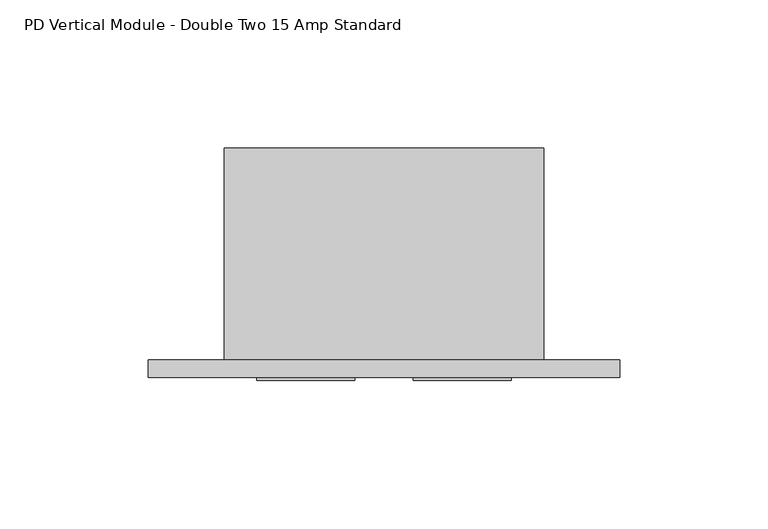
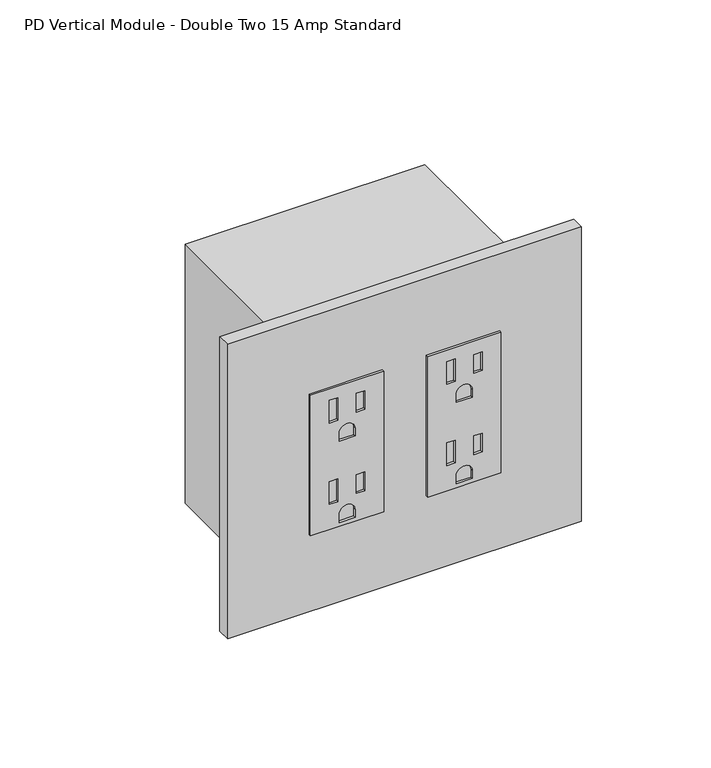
"""IFC4 building model written with IfcOpenShell, lengths in millimetres: proxy geometry, Electrical-Teknion-EPDMD_Vertical_Power_Data_Double-R2019 : PD Vertical Module - Double Two 15 Amp Standard."""

from ifc_helpers import new_model, si_unit, point, frame, frame_2d, origin, place, context, project, spatial, polyline, circle_curve, trimmed, segment, composite_curve, outline, extrude, source, transform, mapped, element, save


def pd_vertical_module_double_two_15_amp_standard_3b64569a(model_context):
    return source(origin(), model_context, "Body", "SweptSolid", [
        extrude(outline(polyline([(490.5876229, 96.9264), (490.5876229, 63.9318), (423.6332229, 63.9318), (423.6332229, 96.9264), (490.5876229, 96.9264)]), holes=[polyline([(485.2028229, 76.2762), (474.3824229, 76.2762), (474.3824229, 72.4408), (485.2028229, 72.4408), (485.2028229, 76.2762)]), polyline([(484.2249229, 88.4428), (475.3603229, 88.4428), (475.3603229, 84.6074), (484.2249229, 84.6074), (484.2249229, 88.4428)]), composite_curve([segment(polyline([(464.1970229, 76.7969), (467.8292229, 76.7969)]), True, "CONTINUOUS"), segment(trimmed(circle_curve(frame_2d((467.8292229, 80.4291)), 3.6322), [point((467.8292229, 76.7969))], [point((467.8292229, 84.0613))], True, "CARTESIAN"), True, "CONTINUOUS"), segment(polyline([(467.8292229, 84.0613), (464.1970229, 84.0613), (464.1970229, 76.7969)]), True, "CONTINUOUS")], self_intersect=False), polyline([(446.4678229, 76.2762), (435.6474229, 76.2762), (435.6474229, 72.4408), (446.4678229, 72.4408), (446.4678229, 76.2762)]), polyline([(445.4899229, 88.4428), (436.6253229, 88.4428), (436.6253229, 84.6074), (445.4899229, 84.6074), (445.4899229, 88.4428)]), composite_curve([segment(polyline([(429.0942229, 84.0613), (425.4620229, 84.0613), (425.4620229, 76.7969), (429.0942229, 76.7969)]), True, "CONTINUOUS"), segment(trimmed(circle_curve(frame_2d((429.0942229, 80.4291)), 3.6322), [point((429.0942229, 76.7969))], [point((429.0942229, 84.0613))], True, "CARTESIAN"), True, "CONTINUOUS")], self_intersect=False)]), frame((0.0, -6.9294746, 0.0), z_axis=(0.0, 1.0, 0.0), x_axis=(0.0, 0.0, 1.0)), (0.0, 0.0, 1.0), 1.0366746),
        extrude(outline(polyline([(490.5876229, 44.0944), (490.5876229, 11.0998), (423.6332229, 11.0998), (423.6332229, 44.0944), (490.5876229, 44.0944)]), holes=[polyline([(485.2028229, 23.4442), (474.3824229, 23.4442), (474.3824229, 19.6088), (485.2028229, 19.6088), (485.2028229, 23.4442)]), polyline([(484.2249229, 35.6108), (475.3603229, 35.6108), (475.3603229, 31.7754), (484.2249229, 31.7754), (484.2249229, 35.6108)]), composite_curve([segment(polyline([(464.1970229, 31.2293), (464.1970229, 23.9649), (467.8292229, 23.9649)]), True, "CONTINUOUS"), segment(trimmed(circle_curve(frame_2d((467.8292229, 27.5971)), 3.6322), [point((467.8292229, 23.9649))], [point((467.8292229, 31.2293))], True, "CARTESIAN"), True, "CONTINUOUS"), segment(polyline([(467.8292229, 31.2293), (464.1970229, 31.2293)]), True, "CONTINUOUS")], self_intersect=False), polyline([(446.4678229, 23.4442), (435.6474229, 23.4442), (435.6474229, 19.6088), (446.4678229, 19.6088), (446.4678229, 23.4442)]), polyline([(445.4899229, 35.6108), (436.6253229, 35.6108), (436.6253229, 31.7754), (445.4899229, 31.7754), (445.4899229, 35.6108)]), composite_curve([segment(polyline([(425.4620229, 31.2293), (425.4620229, 23.9649), (429.0942229, 23.9649)]), True, "CONTINUOUS"), segment(trimmed(circle_curve(frame_2d((429.0942229, 27.5971)), 3.6322), [point((429.0942229, 23.9649))], [point((429.0942229, 31.2293))], True, "CARTESIAN"), True, "CONTINUOUS"), segment(polyline([(429.0942229, 31.2293), (425.4620229, 31.2293)]), True, "CONTINUOUS")], self_intersect=False)]), frame((0.0, -6.9294746, 0.0), z_axis=(0.0, 1.0, 0.0), x_axis=(0.0, 0.0, 1.0)), (0.0, 0.0, 1.0), 1.0366746),
        extrude(outline(polyline([(-25.6794, 0.0), (133.7056, 0.0), (133.7056, -5.8928), (-25.6794, -5.8928), (-25.6794, 0.0)])), frame((0.0, 0.0, 386.9302229), z_axis=(0.0, 0.0, 1.0), x_axis=(1.0, 0.0, 0.0)), (0.0, 0.0, 1.0), 140.3604),
        extrude(outline(polyline([(108.0262, 0.0), (0.0, 0.0), (0.0, 71.7296), (108.0262, 71.7296), (108.0262, 0.0)])), frame((0.0, 0.0, 395.3630229), z_axis=(0.0, 0.0, 1.0), x_axis=(1.0, 0.0, 0.0)), (0.0, 0.0, 1.0), 123.4948),
    ])


if __name__ == "__main__":
    model = new_model("IFC4")
    model_context = context("Model", 3, world=origin())
    ifc_project = project(units=[si_unit("LENGTHUNIT", "METRE", prefix="MILLI")], contexts=[model_context])
    site = spatial("IfcSite", under=ifc_project)
    building = spatial("IfcBuilding", under=site)
    placement = place(None, origin())
    pd_vertical_module_double_two_15_amp_standard_shape = pd_vertical_module_double_two_15_amp_standard_3b64569a(model_context)
    element("IfcBuildingElementProxy", 1, Name="Electrical-Teknion-EPDMD_Vertical_Power_Data_Double-R2019 : PD Vertical Module - Double Two 15 Amp Standard", ObjectType="Electrical-Teknion-EPDMD_Vertical_Power_Data_Double-R2019 : PD Vertical Module - Double Two 15 Amp Standard", at=placement, inside=building, context=model_context, shape_type="MappedRepresentation", body=[
        mapped(pd_vertical_module_double_two_15_amp_standard_shape, transform((0.0, 0.0, 0.0), x_axis=(1.0, 0.0, 0.0), y_axis=(0.0, 1.0, 0.0), z_axis=(0.0, 0.0, 1.0))),
    ])
    save(model, "model.ifc")
